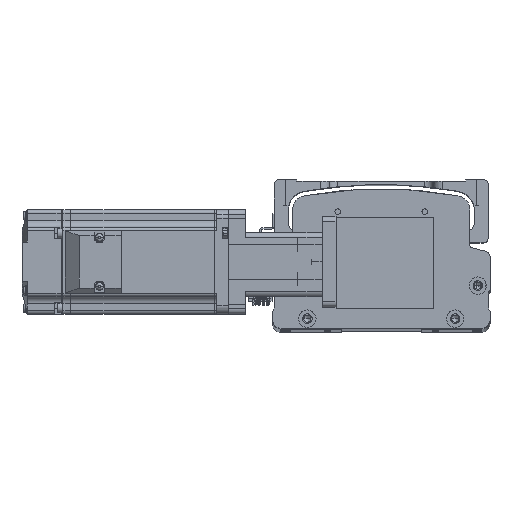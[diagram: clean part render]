
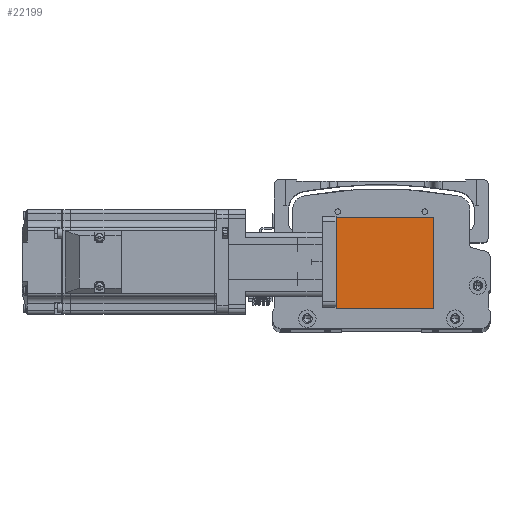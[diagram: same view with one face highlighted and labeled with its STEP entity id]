
A CAD part, top view. The second image highlights one B-rep face of the part: STEP entity #22199.
In plain terms, the highlighted planar face has unit normal (0, 0, 1) as drawn and (-1, 0, 0) by its records, which use the part's own axes.
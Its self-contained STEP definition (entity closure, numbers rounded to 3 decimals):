
#2608 = LINE ( 'NONE', #49158, #52343 ) ;
#3030 = PLANE ( 'NONE',  #26472 ) ;
#5971 = DIRECTION ( 'NONE',  ( 0., -1., 0. ) ) ;
#6175 = VECTOR ( 'NONE', #34318, 1000. ) ;
#6450 = CARTESIAN_POINT ( 'NONE',  ( -31.5, 26., 0. ) ) ;
#7847 = VERTEX_POINT ( 'NONE', #13589 ) ;
#8472 = EDGE_LOOP ( 'NONE', ( #32145, #36209, #34893, #50057 ) ) ;
#12723 = CARTESIAN_POINT ( 'NONE',  ( -31.5, -26., 56. ) ) ;
#13504 = EDGE_CURVE ( 'NONE', #38982, #30207, #22036, .T. ) ;
#13589 = CARTESIAN_POINT ( 'NONE',  ( -31.5, -26., 56. ) ) ;
#14745 = CARTESIAN_POINT ( 'NONE',  ( -31.5, 26., 56. ) ) ;
#18916 = CARTESIAN_POINT ( 'NONE',  ( -31.5, -26., 0. ) ) ;
#19531 = FACE_OUTER_BOUND ( 'NONE', #8472, .T. ) ;
#19718 = EDGE_CURVE ( 'NONE', #7847, #54291, #34366, .T. ) ;
#22036 = LINE ( 'NONE', #14745, #6175 ) ;
#22199 = ADVANCED_FACE ( 'NONE', ( #19531 ), #3030, .F. ) ;
#22950 = DIRECTION ( 'NONE',  ( 0., -1., 0. ) ) ;
#23338 = VECTOR ( 'NONE', #22950, 1000. ) ;
#25909 = EDGE_CURVE ( 'NONE', #38982, #7847, #48053, .T. ) ;
#26472 = AXIS2_PLACEMENT_3D ( 'NONE', #12723, #27294, #60942 ) ;
#27068 = DIRECTION ( 'NONE',  ( 0., 0., -1. ) ) ;
#27294 = DIRECTION ( 'NONE',  ( 1., 0., 0. ) ) ;
#30207 = VERTEX_POINT ( 'NONE', #6450 ) ;
#30942 = CARTESIAN_POINT ( 'NONE',  ( -31.5, 26., 56. ) ) ;
#32145 = ORIENTED_EDGE ( 'NONE', *, *, #39369, .T. ) ;
#32408 = CARTESIAN_POINT ( 'NONE',  ( -31.5, -26., 56. ) ) ;
#34318 = DIRECTION ( 'NONE',  ( 0., 0., -1. ) ) ;
#34366 = LINE ( 'NONE', #36524, #59976 ) ;
#34893 = ORIENTED_EDGE ( 'NONE', *, *, #25909, .F. ) ;
#36209 = ORIENTED_EDGE ( 'NONE', *, *, #19718, .F. ) ;
#36524 = CARTESIAN_POINT ( 'NONE',  ( -31.5, -26., 56. ) ) ;
#38982 = VERTEX_POINT ( 'NONE', #30942 ) ;
#39369 = EDGE_CURVE ( 'NONE', #30207, #54291, #2608, .T. ) ;
#48053 = LINE ( 'NONE', #32408, #23338 ) ;
#49158 = CARTESIAN_POINT ( 'NONE',  ( -31.5, -26., 0. ) ) ;
#50057 = ORIENTED_EDGE ( 'NONE', *, *, #13504, .T. ) ;
#52343 = VECTOR ( 'NONE', #5971, 1000. ) ;
#54291 = VERTEX_POINT ( 'NONE', #18916 ) ;
#59976 = VECTOR ( 'NONE', #27068, 1000. ) ;
#60942 = DIRECTION ( 'NONE',  ( 0., 0., -1. ) ) ;
